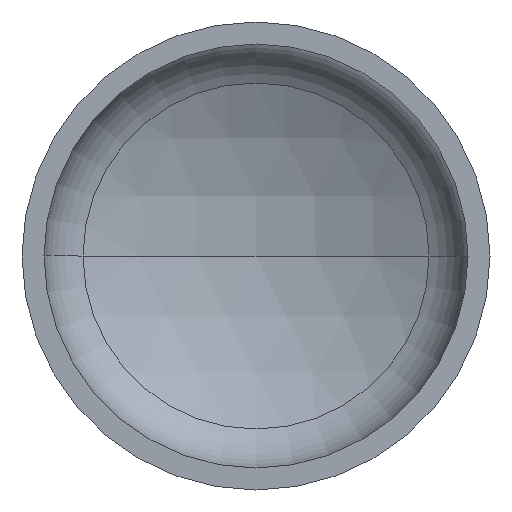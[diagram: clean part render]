
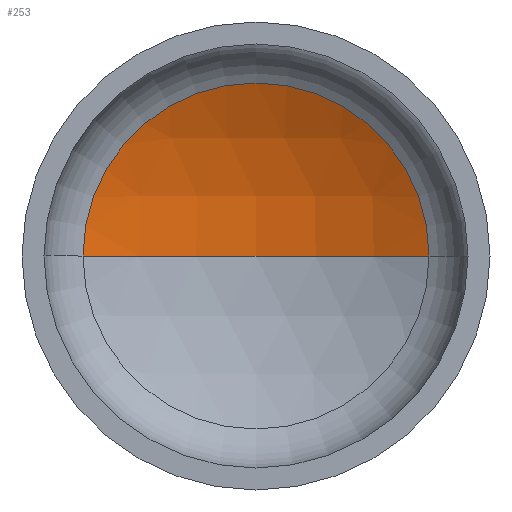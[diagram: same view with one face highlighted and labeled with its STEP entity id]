
A CAD part, front view. The second image highlights one B-rep face of the part: STEP entity #253.
In plain terms, the highlighted spherical face has radius 1600 mm.
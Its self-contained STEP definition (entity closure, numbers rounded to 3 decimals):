
#4 = ORIENTED_EDGE ( 'NONE', *, *, #129, .F. ) ;
#10 = EDGE_LOOP ( 'NONE', ( #4, #333, #117 ) ) ;
#18 = AXIS2_PLACEMENT_3D ( 'NONE', #174, #49, #58 ) ;
#38 = AXIS2_PLACEMENT_3D ( 'NONE', #145, #308, #340 ) ;
#39 = AXIS2_PLACEMENT_3D ( 'NONE', #149, #310, #360 ) ;
#40 = AXIS2_PLACEMENT_3D ( 'NONE', #202, #181, #184 ) ;
#49 = DIRECTION ( 'NONE',  ( 0., 0., -1. ) ) ;
#58 = DIRECTION ( 'NONE',  ( -1., 0., 0. ) ) ;
#101 = EDGE_CURVE ( 'NONE', #143, #164, #122, .T. ) ;
#102 = CIRCLE ( 'NONE', #39, 1600. ) ;
#114 = EDGE_CURVE ( 'NONE', #116, #143, #102, .T. ) ;
#116 = VERTEX_POINT ( 'NONE', #206 ) ;
#117 = ORIENTED_EDGE ( 'NONE', *, *, #101, .T. ) ;
#122 = CIRCLE ( 'NONE', #40, 739.225 ) ;
#129 = EDGE_CURVE ( 'NONE', #116, #164, #256, .T. ) ;
#143 = VERTEX_POINT ( 'NONE', #289 ) ;
#145 = CARTESIAN_POINT ( 'NONE',  ( 0., -1044.065, 0. ) ) ;
#149 = CARTESIAN_POINT ( 'NONE',  ( 0., -1044.065, 0. ) ) ;
#164 = VERTEX_POINT ( 'NONE', #251 ) ;
#171 = FACE_OUTER_BOUND ( 'NONE', #10, .T. ) ;
#174 = CARTESIAN_POINT ( 'NONE',  ( 0., -1044.065, 0. ) ) ;
#181 = DIRECTION ( 'NONE',  ( 0., -1., 0. ) ) ;
#184 = DIRECTION ( 'NONE',  ( 1., 0., 0. ) ) ;
#202 = CARTESIAN_POINT ( 'NONE',  ( 0., 374.93, 0. ) ) ;
#206 = CARTESIAN_POINT ( 'NONE',  ( 0., 555.935, 0. ) ) ;
#251 = CARTESIAN_POINT ( 'NONE',  ( -739.225, 374.93, 0. ) ) ;
#253 = ADVANCED_FACE ( 'NONE', ( #171 ), #362, .F. ) ;
#256 = CIRCLE ( 'NONE', #38, 1600. ) ;
#289 = CARTESIAN_POINT ( 'NONE',  ( 739.225, 374.93, 0. ) ) ;
#308 = DIRECTION ( 'NONE',  ( 0., 0., 1. ) ) ;
#310 = DIRECTION ( 'NONE',  ( 0., 0., -1. ) ) ;
#333 = ORIENTED_EDGE ( 'NONE', *, *, #114, .T. ) ;
#340 = DIRECTION ( 'NONE',  ( 1., 0., 0. ) ) ;
#360 = DIRECTION ( 'NONE',  ( -1., 0., 0. ) ) ;
#362 = SPHERICAL_SURFACE ( 'NONE', #18, 1600. ) ;
